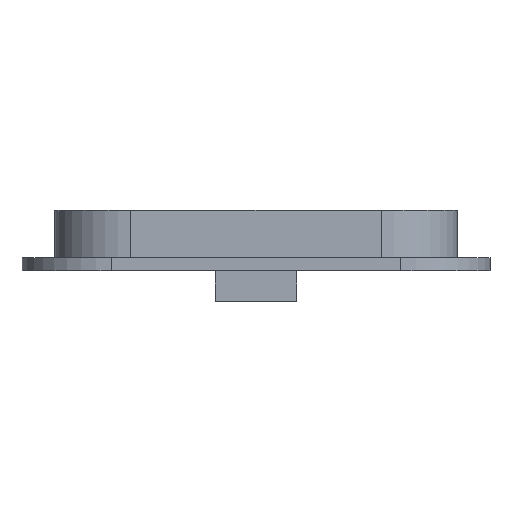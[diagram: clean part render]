
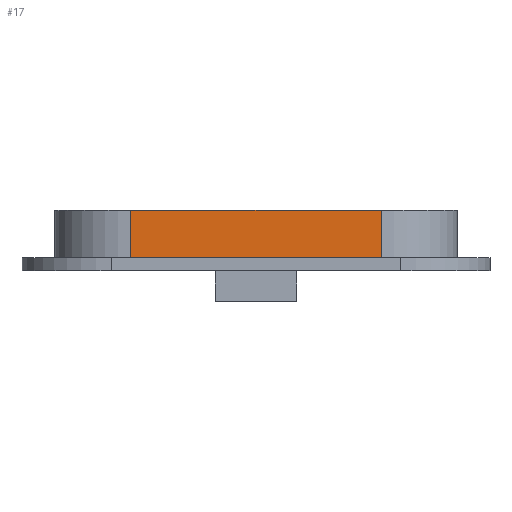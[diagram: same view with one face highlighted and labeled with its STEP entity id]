
A CAD part, left-side view. The second image highlights one B-rep face of the part: STEP entity #17.
In plain terms, the highlighted planar face has unit normal (-1, 0, 0).
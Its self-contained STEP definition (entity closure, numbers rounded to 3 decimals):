
#17 = ADVANCED_FACE('',(#18),#32,.F.);
#18 = FACE_BOUND('',#19,.F.);
#19 = EDGE_LOOP('',(#20,#55,#83,#111));
#20 = ORIENTED_EDGE('',*,*,#21,.F.);
#21 = EDGE_CURVE('',#22,#24,#26,.T.);
#22 = VERTEX_POINT('',#23);
#23 = CARTESIAN_POINT('',(-12.4,-54.2,13.8));
#24 = VERTEX_POINT('',#25);
#25 = CARTESIAN_POINT('',(-12.4,-38.8,13.8));
#26 = SURFACE_CURVE('',#27,(#31,#43),.PCURVE_S1.);
#27 = LINE('',#28,#29);
#28 = CARTESIAN_POINT('',(-12.4,-58.9,13.8));
#29 = VECTOR('',#30,1.);
#30 = DIRECTION('',(0.,1.,0.));
#31 = PCURVE('',#32,#37);
#32 = PLANE('',#33);
#33 = AXIS2_PLACEMENT_3D('',#34,#35,#36);
#34 = CARTESIAN_POINT('',(-12.4,-58.9,12.2));
#35 = DIRECTION('',(1.,0.,0.));
#36 = DIRECTION('',(0.,0.,1.));
#37 = DEFINITIONAL_REPRESENTATION('',(#38),#42);
#38 = LINE('',#39,#40);
#39 = CARTESIAN_POINT('',(1.6,0.));
#40 = VECTOR('',#41,1.);
#41 = DIRECTION('',(0.,-1.));
#42 = ( GEOMETRIC_REPRESENTATION_CONTEXT(2) 
PARAMETRIC_REPRESENTATION_CONTEXT() REPRESENTATION_CONTEXT('2D SPACE',''
  ) );
#43 = PCURVE('',#44,#49);
#44 = PLANE('',#45);
#45 = AXIS2_PLACEMENT_3D('',#46,#47,#48);
#46 = CARTESIAN_POINT('',(-12.4,-58.9,13.8));
#47 = DIRECTION('',(0.,0.,1.));
#48 = DIRECTION('',(1.,0.,0.));
#49 = DEFINITIONAL_REPRESENTATION('',(#50),#54);
#50 = LINE('',#51,#52);
#51 = CARTESIAN_POINT('',(0.,0.));
#52 = VECTOR('',#53,1.);
#53 = DIRECTION('',(0.,1.));
#54 = ( GEOMETRIC_REPRESENTATION_CONTEXT(2) 
PARAMETRIC_REPRESENTATION_CONTEXT() REPRESENTATION_CONTEXT('2D SPACE',''
  ) );
#55 = ORIENTED_EDGE('',*,*,#56,.F.);
#56 = EDGE_CURVE('',#57,#22,#59,.T.);
#57 = VERTEX_POINT('',#58);
#58 = CARTESIAN_POINT('',(-12.4,-54.2,10.9));
#59 = SURFACE_CURVE('',#60,(#64,#71),.PCURVE_S1.);
#60 = LINE('',#61,#62);
#61 = CARTESIAN_POINT('',(-12.4,-54.2,10.9));
#62 = VECTOR('',#63,1.);
#63 = DIRECTION('',(0.,0.,1.));
#64 = PCURVE('',#32,#65);
#65 = DEFINITIONAL_REPRESENTATION('',(#66),#70);
#66 = LINE('',#67,#68);
#67 = CARTESIAN_POINT('',(-1.3,-4.7));
#68 = VECTOR('',#69,1.);
#69 = DIRECTION('',(1.,0.));
#70 = ( GEOMETRIC_REPRESENTATION_CONTEXT(2) 
PARAMETRIC_REPRESENTATION_CONTEXT() REPRESENTATION_CONTEXT('2D SPACE',''
  ) );
#71 = PCURVE('',#72,#77);
#72 = CYLINDRICAL_SURFACE('',#73,4.7);
#73 = AXIS2_PLACEMENT_3D('',#74,#75,#76);
#74 = CARTESIAN_POINT('',(-7.7,-54.2,12.2));
#75 = DIRECTION('',(0.,0.,1.));
#76 = DIRECTION('',(-1.,-0.,0.));
#77 = DEFINITIONAL_REPRESENTATION('',(#78),#82);
#78 = LINE('',#79,#80);
#79 = CARTESIAN_POINT('',(0.,-1.3));
#80 = VECTOR('',#81,1.);
#81 = DIRECTION('',(0.,1.));
#82 = ( GEOMETRIC_REPRESENTATION_CONTEXT(2) 
PARAMETRIC_REPRESENTATION_CONTEXT() REPRESENTATION_CONTEXT('2D SPACE',''
  ) );
#83 = ORIENTED_EDGE('',*,*,#84,.T.);
#84 = EDGE_CURVE('',#57,#85,#87,.T.);
#85 = VERTEX_POINT('',#86);
#86 = CARTESIAN_POINT('',(-12.4,-38.8,10.9));
#87 = SURFACE_CURVE('',#88,(#92,#99),.PCURVE_S1.);
#88 = LINE('',#89,#90);
#89 = CARTESIAN_POINT('',(-12.4,-59.9,10.9));
#90 = VECTOR('',#91,1.);
#91 = DIRECTION('',(0.,1.,0.));
#92 = PCURVE('',#32,#93);
#93 = DEFINITIONAL_REPRESENTATION('',(#94),#98);
#94 = LINE('',#95,#96);
#95 = CARTESIAN_POINT('',(-1.3,1.));
#96 = VECTOR('',#97,1.);
#97 = DIRECTION('',(0.,-1.));
#98 = ( GEOMETRIC_REPRESENTATION_CONTEXT(2) 
PARAMETRIC_REPRESENTATION_CONTEXT() REPRESENTATION_CONTEXT('2D SPACE',''
  ) );
#99 = PCURVE('',#100,#105);
#100 = PLANE('',#101);
#101 = AXIS2_PLACEMENT_3D('',#102,#103,#104);
#102 = CARTESIAN_POINT('',(-14.4,-60.9,10.9));
#103 = DIRECTION('',(0.,0.,1.));
#104 = DIRECTION('',(1.,0.,0.));
#105 = DEFINITIONAL_REPRESENTATION('',(#106),#110);
#106 = LINE('',#107,#108);
#107 = CARTESIAN_POINT('',(2.,1.));
#108 = VECTOR('',#109,1.);
#109 = DIRECTION('',(0.,1.));
#110 = ( GEOMETRIC_REPRESENTATION_CONTEXT(2) 
PARAMETRIC_REPRESENTATION_CONTEXT() REPRESENTATION_CONTEXT('2D SPACE',''
  ) );
#111 = ORIENTED_EDGE('',*,*,#112,.F.);
#112 = EDGE_CURVE('',#24,#85,#113,.T.);
#113 = SURFACE_CURVE('',#114,(#118,#125),.PCURVE_S1.);
#114 = LINE('',#115,#116);
#115 = CARTESIAN_POINT('',(-12.4,-38.8,13.8));
#116 = VECTOR('',#117,1.);
#117 = DIRECTION('',(0.,0.,-1.));
#118 = PCURVE('',#32,#119);
#119 = DEFINITIONAL_REPRESENTATION('',(#120),#124);
#120 = LINE('',#121,#122);
#121 = CARTESIAN_POINT('',(1.6,-20.1));
#122 = VECTOR('',#123,1.);
#123 = DIRECTION('',(-1.,0.));
#124 = ( GEOMETRIC_REPRESENTATION_CONTEXT(2) 
PARAMETRIC_REPRESENTATION_CONTEXT() REPRESENTATION_CONTEXT('2D SPACE',''
  ) );
#125 = PCURVE('',#126,#131);
#126 = CYLINDRICAL_SURFACE('',#127,4.7);
#127 = AXIS2_PLACEMENT_3D('',#128,#129,#130);
#128 = CARTESIAN_POINT('',(-7.7,-38.8,12.2));
#129 = DIRECTION('',(0.,0.,1.));
#130 = DIRECTION('',(-1.,-0.,0.));
#131 = DEFINITIONAL_REPRESENTATION('',(#132),#136);
#132 = LINE('',#133,#134);
#133 = CARTESIAN_POINT('',(-0.,1.6));
#134 = VECTOR('',#135,1.);
#135 = DIRECTION('',(-0.,-1.));
#136 = ( GEOMETRIC_REPRESENTATION_CONTEXT(2) 
PARAMETRIC_REPRESENTATION_CONTEXT() REPRESENTATION_CONTEXT('2D SPACE',''
  ) );
